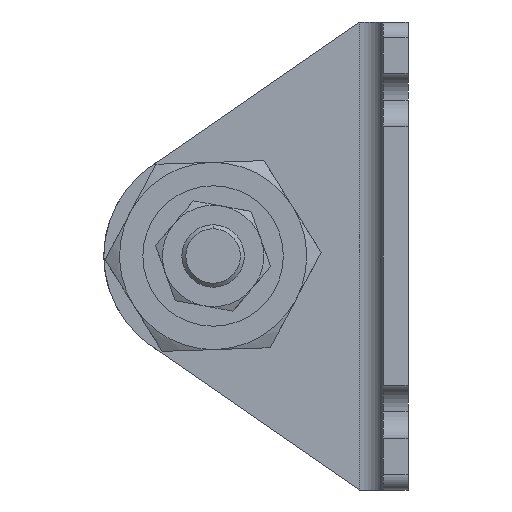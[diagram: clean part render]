
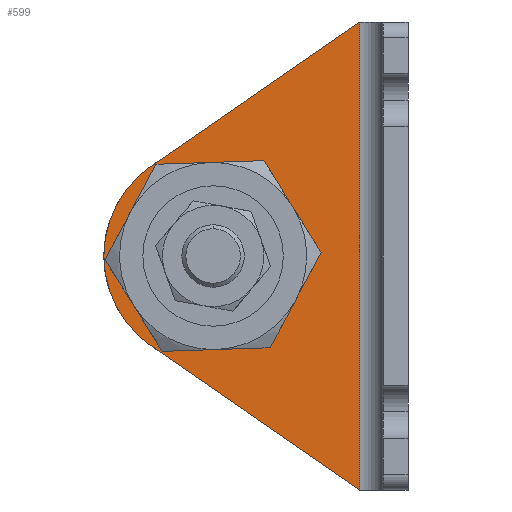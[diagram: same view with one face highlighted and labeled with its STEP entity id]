
A CAD part, left-side view. The second image highlights one B-rep face of the part: STEP entity #599.
In plain terms, the highlighted planar face has unit normal (-1, 0, 0) as drawn and (1, 0, 0) by its records, which use the part's own axes.
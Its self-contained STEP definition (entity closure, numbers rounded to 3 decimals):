
#48 = CARTESIAN_POINT ( 'NONE',  ( 3.2, 25., -30. ) ) ;
#95 = CARTESIAN_POINT ( 'NONE',  ( 3.2, 6.2, -60. ) ) ;
#180 = FACE_BOUND ( 'NONE', #3033, .T. ) ;
#191 = CARTESIAN_POINT ( 'NONE',  ( 3.2, 32.956, -18.481 ) ) ;
#295 = ORIENTED_EDGE ( 'NONE', *, *, #1530, .T. ) ;
#354 = VECTOR ( 'NONE', #563, 1000. ) ;
#390 = CIRCLE ( 'NONE', #2461, 9.5 ) ;
#455 = CARTESIAN_POINT ( 'NONE',  ( 3.2, 3.2, -60. ) ) ;
#563 = DIRECTION ( 'NONE',  ( 0., 0.823, 0.568 ) ) ;
#599 = ADVANCED_FACE ( 'NONE', ( #180, #2156 ), #4051, .T. ) ;
#651 = DIRECTION ( 'NONE',  ( 0., 0.823, -0.568 ) ) ;
#729 = CARTESIAN_POINT ( 'NONE',  ( 3.2, 32.956, -41.519 ) ) ;
#791 = AXIS2_PLACEMENT_3D ( 'NONE', #2069, #1072, #2285 ) ;
#833 = CARTESIAN_POINT ( 'NONE',  ( 3.2, 34.5, -30. ) ) ;
#846 = VERTEX_POINT ( 'NONE', #3998 ) ;
#953 = CARTESIAN_POINT ( 'NONE',  ( 3.2, 25., -30. ) ) ;
#1008 = AXIS2_PLACEMENT_3D ( 'NONE', #48, #4211, #1099 ) ;
#1072 = DIRECTION ( 'NONE',  ( 1., 0., 0. ) ) ;
#1099 = DIRECTION ( 'NONE',  ( 0., 1., 0. ) ) ;
#1114 = DIRECTION ( 'NONE',  ( 1., 0., 0. ) ) ;
#1185 = VERTEX_POINT ( 'NONE', #729 ) ;
#1313 = VECTOR ( 'NONE', #3768, 1000. ) ;
#1340 = CARTESIAN_POINT ( 'NONE',  ( 3.2, 32.226, -17.976 ) ) ;
#1456 = ORIENTED_EDGE ( 'NONE', *, *, #1641, .F. ) ;
#1524 = AXIS2_PLACEMENT_3D ( 'NONE', #455, #2221, #2684 ) ;
#1530 = EDGE_CURVE ( 'NONE', #1185, #3810, #2579, .T. ) ;
#1624 = DIRECTION ( 'NONE',  ( 0., 1., 0. ) ) ;
#1641 = EDGE_CURVE ( 'NONE', #2520, #1867, #390, .T. ) ;
#1711 = ORIENTED_EDGE ( 'NONE', *, *, #2734, .T. ) ;
#1758 = CARTESIAN_POINT ( 'NONE',  ( 3.2, 39., -30. ) ) ;
#1867 = VERTEX_POINT ( 'NONE', #3765 ) ;
#1871 = EDGE_CURVE ( 'NONE', #846, #1941, #2216, .T. ) ;
#1941 = VERTEX_POINT ( 'NONE', #3971 ) ;
#2069 = CARTESIAN_POINT ( 'NONE',  ( 3.2, 25., -30. ) ) ;
#2070 = VERTEX_POINT ( 'NONE', #191 ) ;
#2156 = FACE_OUTER_BOUND ( 'NONE', #2339, .T. ) ;
#2216 = LINE ( 'NONE', #95, #1313 ) ;
#2221 = DIRECTION ( 'NONE',  ( 1., 0., 0. ) ) ;
#2276 = EDGE_CURVE ( 'NONE', #846, #2070, #3553, .T. ) ;
#2285 = DIRECTION ( 'NONE',  ( 0., 1., 0. ) ) ;
#2339 = EDGE_LOOP ( 'NONE', ( #1711, #295, #3357, #4222, #2495 ) ) ;
#2450 = DIRECTION ( 'NONE',  ( 1., 0., 0. ) ) ;
#2461 = AXIS2_PLACEMENT_3D ( 'NONE', #3811, #1114, #1624 ) ;
#2495 = ORIENTED_EDGE ( 'NONE', *, *, #1871, .T. ) ;
#2510 = VECTOR ( 'NONE', #651, 1000. ) ;
#2520 = VERTEX_POINT ( 'NONE', #833 ) ;
#2546 = EDGE_CURVE ( 'NONE', #3810, #2070, #3304, .T. ) ;
#2579 = CIRCLE ( 'NONE', #4221, 14. ) ;
#2639 = DIRECTION ( 'NONE',  ( 0., 1., 0. ) ) ;
#2645 = LINE ( 'NONE', #3398, #354 ) ;
#2684 = DIRECTION ( 'NONE',  ( 0., 1., 0. ) ) ;
#2734 = EDGE_CURVE ( 'NONE', #1941, #1185, #2645, .T. ) ;
#2929 = ORIENTED_EDGE ( 'NONE', *, *, #3165, .F. ) ;
#3033 = EDGE_LOOP ( 'NONE', ( #1456, #2929 ) ) ;
#3165 = EDGE_CURVE ( 'NONE', #1867, #2520, #3215, .T. ) ;
#3215 = CIRCLE ( 'NONE', #791, 9.5 ) ;
#3304 = CIRCLE ( 'NONE', #1008, 14. ) ;
#3357 = ORIENTED_EDGE ( 'NONE', *, *, #2546, .T. ) ;
#3398 = CARTESIAN_POINT ( 'NONE',  ( 3.2, 4.169, -61.403 ) ) ;
#3553 = LINE ( 'NONE', #1340, #2510 ) ;
#3765 = CARTESIAN_POINT ( 'NONE',  ( 3.2, 15.5, -30. ) ) ;
#3768 = DIRECTION ( 'NONE',  ( 0., 0., -1. ) ) ;
#3810 = VERTEX_POINT ( 'NONE', #1758 ) ;
#3811 = CARTESIAN_POINT ( 'NONE',  ( 3.2, 25., -30. ) ) ;
#3971 = CARTESIAN_POINT ( 'NONE',  ( 3.2, 6.2, -60. ) ) ;
#3998 = CARTESIAN_POINT ( 'NONE',  ( 3.2, 6.2, 0. ) ) ;
#4051 = PLANE ( 'NONE',  #1524 ) ;
#4211 = DIRECTION ( 'NONE',  ( 1., 0., 0. ) ) ;
#4221 = AXIS2_PLACEMENT_3D ( 'NONE', #953, #2450, #2639 ) ;
#4222 = ORIENTED_EDGE ( 'NONE', *, *, #2276, .F. ) ;
